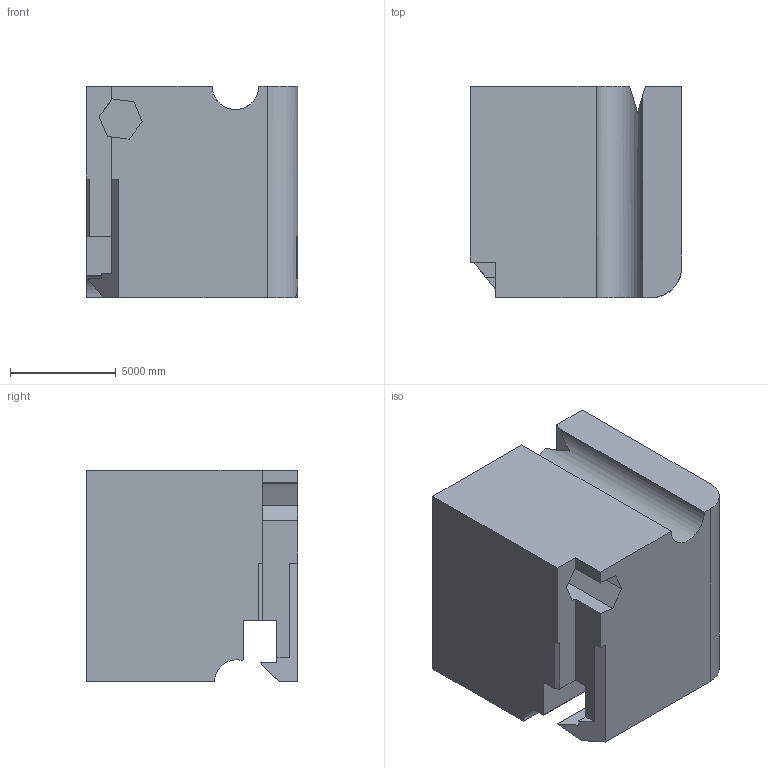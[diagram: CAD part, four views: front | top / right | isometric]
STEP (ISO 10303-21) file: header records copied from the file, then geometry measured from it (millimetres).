
FILE_DESCRIPTION (( 'STEP AP203' ), '1' );
FILE_NAME ('174.STEP', '2022-08-31T12:10:04', ( 'user' ), ( '' ), 'SwSTEP 2.0', 'SolidWorks 2021', '' );
FILE_SCHEMA (( 'CONFIG_CONTROL_DESIGN' ));
Length unit declared in the file: centimetre
Products named in the file (1): 174
Bounding box: 10000 x 10000 x 10000 mm (x, y, z)
Volume: 881946377029.9 mm3; surface area: 692742625.1 mm2
Topology: 1 solids, 1 shells, 36 faces, 102 edges, 68 vertices
Faces by surface type: plane 33, cylinder 3
Entity records: 1231 total; most frequent: CARTESIAN_POINT 216, ORIENTED_EDGE 204, DIRECTION 181, EDGE_CURVE 102, VECTOR 91, LINE 91, VERTEX_POINT 68, AXIS2_PLACEMENT_3D 45
